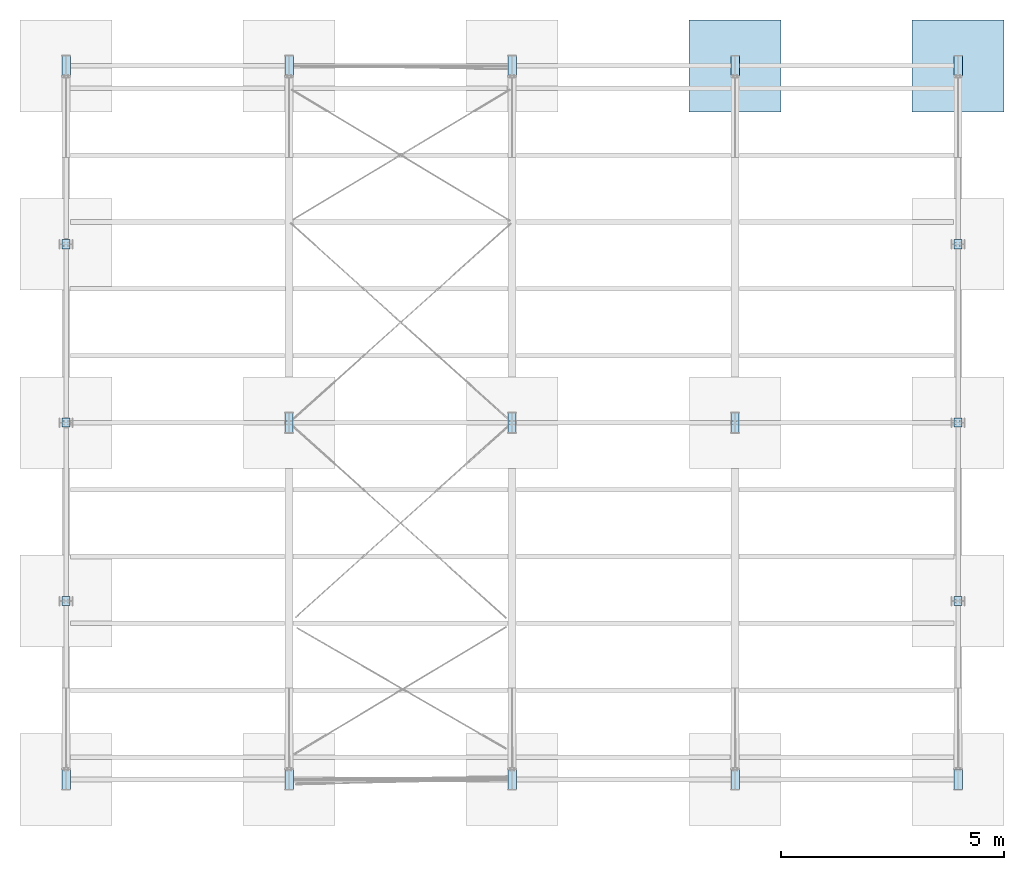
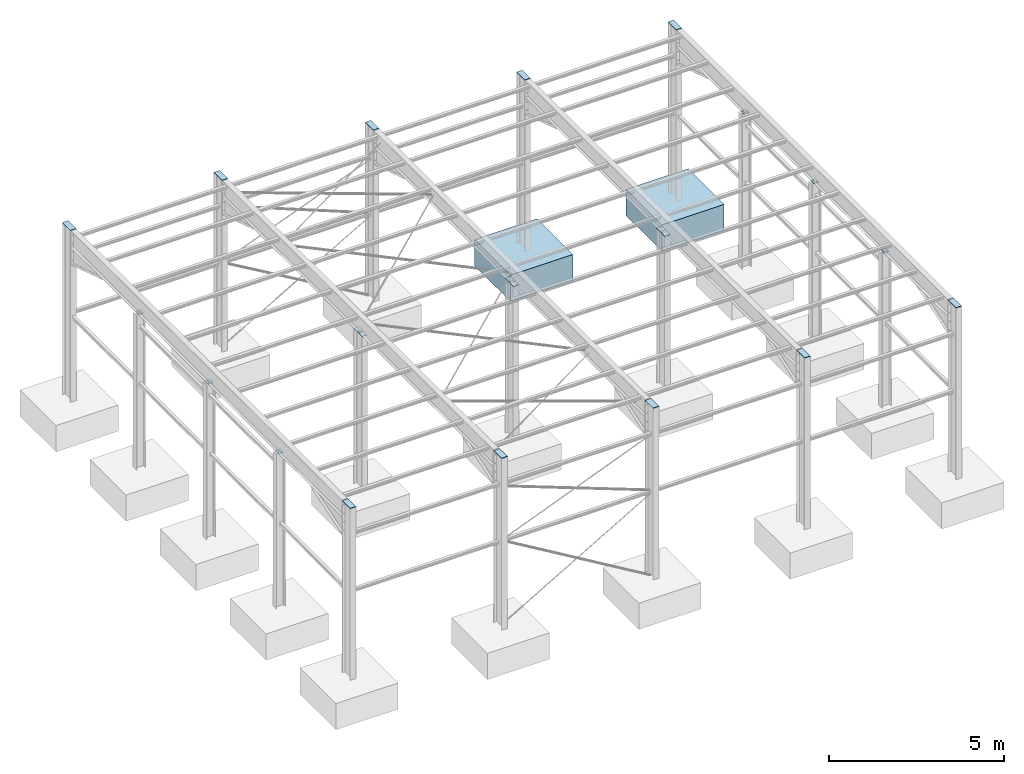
# Not in any storey, part 7 of 51: 20 plates, 2 slabs, 36 openings.
"""IFC4 model written with IfcOpenShell, lengths in feet."""

from ifc_helpers import new_model, entity, si_unit, converted_unit, direction, frame, frame_2d, origin, origin_with_axes, place, context, subcontext, project, spatial, polyline, indexed_curve, circle, outline, extrude, material, layer, layer_set, type_object, element, save


model = new_model("IFC4")

# Units and contexts
model_context = context("Model", 3, precision=0.0001, world=origin(), true_north=direction((6.123233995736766e-17, 1.0)))
body_context = subcontext(model_context, "Body", "Model", "MODEL_VIEW")
ifc_project = project(units=[converted_unit("LENGTHUNIT", "FOOT", entity("IfcLengthMeasure", 0.3048), si_unit("LENGTHUNIT", "METRE"), dimensions=[1, 0, 0, 0, 0, 0, 0]), converted_unit("AREAUNIT", "SQUARE INCH", entity("IfcAreaMeasure", 0.0006451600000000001), si_unit("AREAUNIT", "SQUARE_METRE"), dimensions=[2, 0, 0, 0, 0, 0, 0]), converted_unit("PLANEANGLEUNIT", "DEGREE", entity("IfcPlaneAngleMeasure", 0.017453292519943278), si_unit("PLANEANGLEUNIT", "RADIAN"), dimensions=[0, 0, 0, 0, 0, 0, 0]), si_unit("VOLUMEUNIT", "CUBIC_METRE")], contexts=[model_context])

# Site
site_placement = place(None, origin())
site = spatial("IfcSite", under=ifc_project, at=site_placement, Name="Default", CompositionType="ELEMENT")

# Slabs
ifc_material_1 = material(Name="Concrete, Cast-in-Place gray", Category="Concrete")
slab_type = type_object("IfcSlabType", Name="Pile Cap-Rectangular:81\" x 81\" x 36\"", PredefinedType="BASESLAB", material=ifc_material_1)
slab_1_placement = place(site_placement, origin())
element("IfcSlab", 1, at=slab_1_placement, inside=site, type_object=slab_type, Name="Pile Cap-Rectangular:81\" x 81\" x 36\"", ObjectType="Pile Cap-Rectangular:81\" x 81\" x 36\"", PredefinedType="BASESLAB", context=body_context, shape_type="SweptSolid", body=[
    extrude(outline(indexed_curve([(-3.375, -3.375), (3.375, -3.375), (3.375, 3.375), (-3.375, 3.375), (-3.375, -3.375)], self_intersect=False)), frame((60.46633519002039, 57.94845552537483, -3.0), z_axis=(0.0, 0.0, 1.0), x_axis=(-1.0, 0.0, 0.0)), (0.0, 0.0, 1.0), 3.0),
])
slab_2_placement = place(site_placement, origin())
element("IfcSlab", 2, at=slab_2_placement, inside=site, type_object=slab_type, Name="Pile Cap-Rectangular:81\" x 81\" x 36\"", ObjectType="Pile Cap-Rectangular:81\" x 81\" x 36\"", PredefinedType="BASESLAB", context=body_context, shape_type="SweptSolid", body=[
    extrude(outline(indexed_curve([(-3.375, -3.375), (3.375, -3.375), (3.375, 3.375), (-3.375, 3.375), (-3.375, -3.375)], self_intersect=False)), frame((76.87053466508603, 57.94845552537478, -3.0), z_axis=(0.0, 0.0, 1.0), x_axis=(-1.0, 0.0, 0.0)), (0.0, 0.0, 1.0), 3.0),
])

# Plates
ifc_material_2 = material(Name="Dachdeckung - Blechdach")
ifc_layer_1 = layer(ifc_material_2, 15.0)
ifc_layer_set_1 = layer_set([ifc_layer_1], Name="Dachdeckung - Blechdach")
for number, where, z_axis, x_axis in (
    (3, (77.18221445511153, 6.205279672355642, 19.63582677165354), (0.0, 0.0, 1.0), (-1.0, 0.0, 0.0)),
    (4, (27.346256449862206, 57.198193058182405, 19.63582677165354), (0.0, 0.0, 1.0), (1.0, 0.0, 0.0)),
    (5, (43.75045592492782, 57.198193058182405, 19.63582677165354), (0.0, 0.0, 1.0), (1.0, 0.0, 0.0)),
    (6, (60.15465539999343, 57.198193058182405, 19.63582677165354), (0.0, 0.0, 1.0), (1.0, 0.0, 0.0)),
):
    element("IfcPlate", number, at=place(site_placement, frame(where, z_axis=z_axis, x_axis=x_axis)), inside=site, material=ifc_layer_set_1, Name="Coverplate", ObjectType="Coverplate", context=model_context, shape_type="SweptSolid", body=[
        extrude(outline(polyline([(0.0, 0.0), (0.6233595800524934, 0.0), (0.6233595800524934, 1.5005249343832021), (0.0, 1.5005249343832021), (0.0, 0.0)])), origin_with_axes(), (0.0, 0.0, 1.0), 0.049212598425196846),
    ])

# Plate, openings
ifc_layer_2 = layer(ifc_material_2, 12.7)
ifc_layer_set_2 = layer_set([ifc_layer_2], Name="Dachdeckung - Blechdach")
plate_1_placement = place(site_placement, frame((11.545820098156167, 32.03548636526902, 17.676706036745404), z_axis=(0.0, 0.0, 1.0), x_axis=(-1.0, 0.0, 0.0)))
plate_1 = element("IfcPlate", 7, at=plate_1_placement, inside=site, material=ifc_layer_set_2, Name="Endplate", ObjectType="Endplate", context=model_context, shape_type="SweptSolid", body=[
    extrude(outline(polyline([(0.0, 0.0), (0.5841666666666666, 0.0), (0.5841666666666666, 0.6675), (0.0, 0.6675), (0.0, 0.0)])), origin_with_axes(), (0.0, 0.0, 1.0), 0.041666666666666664),
])
opening_1_placement = place(plate_1_placement, frame((0.2920833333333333, 0.33375, -0.0016404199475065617), z_axis=(0.0, 0.0, 1.0), x_axis=(0.0, -1.0, 0.0)))
element("IfcOpeningElement", 8, at=opening_1_placement, cuts=plate_1, ObjectType="Opening", context=model_context, shape_type="SweptSolid", body=[
    extrude(circle(Radius=0.03385744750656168, at=frame_2d((0.125, 0.14583333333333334), x_axis=(1.0, 0.0))), origin(), (0.0, 0.0, 1.0), 0.044947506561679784),
])
opening_2_placement = place(plate_1_placement, frame((0.2920833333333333, 0.33375, -0.0016404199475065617), z_axis=(0.0, 0.0, 1.0), x_axis=(0.0, -1.0, 0.0)))
element("IfcOpeningElement", 9, at=opening_2_placement, cuts=plate_1, ObjectType="Opening", context=model_context, shape_type="SweptSolid", body=[
    extrude(circle(Radius=0.03385744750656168, at=frame_2d((-0.125, 0.14583333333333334), x_axis=(1.0, 0.0))), origin(), (0.0, 0.0, 1.0), 0.044947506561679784),
])
opening_3_placement = place(plate_1_placement, frame((0.2920833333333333, 0.33375, -0.0016404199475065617), z_axis=(0.0, 0.0, 1.0), x_axis=(0.0, -1.0, 0.0)))
element("IfcOpeningElement", 10, at=opening_3_placement, cuts=plate_1, ObjectType="Opening", context=model_context, shape_type="SweptSolid", body=[
    extrude(circle(Radius=0.03385744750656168, at=frame_2d((0.125, -0.14583333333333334), x_axis=(1.0, 0.0))), origin(), (0.0, 0.0, 1.0), 0.044947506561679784),
])
opening_4_placement = place(plate_1_placement, frame((0.2920833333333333, 0.33375, -0.0016404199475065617), z_axis=(0.0, 0.0, 1.0), x_axis=(0.0, -1.0, 0.0)))
element("IfcOpeningElement", 11, at=opening_4_placement, cuts=plate_1, ObjectType="Opening", context=model_context, shape_type="SweptSolid", body=[
    extrude(circle(Radius=0.03385744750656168, at=frame_2d((-0.125, -0.14583333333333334), x_axis=(1.0, 0.0))), origin(), (0.0, 0.0, 1.0), 0.044947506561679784),
])

plate_2_placement = place(site_placement, frame((11.545820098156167, 45.15884594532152, 17.676706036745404), z_axis=(0.0, 0.0, 1.0), x_axis=(-1.0, 0.0, 0.0)))
plate_2 = element("IfcPlate", 12, at=plate_2_placement, inside=site, material=ifc_layer_set_2, Name="Endplate", ObjectType="Endplate", context=model_context, shape_type="SweptSolid", body=[
    extrude(outline(polyline([(0.0, 0.0), (0.5841666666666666, 0.0), (0.5841666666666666, 0.6675), (0.0, 0.6675), (0.0, 0.0)])), origin_with_axes(), (0.0, 0.0, 1.0), 0.041666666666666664),
])
opening_5_placement = place(plate_2_placement, frame((0.2920833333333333, 0.33375, -0.0016404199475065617), z_axis=(0.0, 0.0, 1.0), x_axis=(0.0, -1.0, 0.0)))
element("IfcOpeningElement", 13, at=opening_5_placement, cuts=plate_2, ObjectType="Opening", context=model_context, shape_type="SweptSolid", body=[
    extrude(circle(Radius=0.03385744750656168, at=frame_2d((0.125, 0.14583333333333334), x_axis=(1.0, 0.0))), origin(), (0.0, 0.0, 1.0), 0.044947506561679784),
])
opening_6_placement = place(plate_2_placement, frame((0.2920833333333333, 0.33375, -0.0016404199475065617), z_axis=(0.0, 0.0, 1.0), x_axis=(0.0, -1.0, 0.0)))
element("IfcOpeningElement", 14, at=opening_6_placement, cuts=plate_2, ObjectType="Opening", context=model_context, shape_type="SweptSolid", body=[
    extrude(circle(Radius=0.03385744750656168, at=frame_2d((-0.125, 0.14583333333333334), x_axis=(1.0, 0.0))), origin(), (0.0, 0.0, 1.0), 0.044947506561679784),
])
opening_7_placement = place(plate_2_placement, frame((0.2920833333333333, 0.33375, -0.0016404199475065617), z_axis=(0.0, 0.0, 1.0), x_axis=(0.0, -1.0, 0.0)))
element("IfcOpeningElement", 15, at=opening_7_placement, cuts=plate_2, ObjectType="Opening", context=model_context, shape_type="SweptSolid", body=[
    extrude(circle(Radius=0.03385744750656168, at=frame_2d((0.125, -0.14583333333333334), x_axis=(1.0, 0.0))), origin(), (0.0, 0.0, 1.0), 0.044947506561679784),
])
opening_8_placement = place(plate_2_placement, frame((0.2920833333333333, 0.33375, -0.0016404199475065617), z_axis=(0.0, 0.0, 1.0), x_axis=(0.0, -1.0, 0.0)))
element("IfcOpeningElement", 16, at=opening_8_placement, cuts=plate_2, ObjectType="Opening", context=model_context, shape_type="SweptSolid", body=[
    extrude(circle(Radius=0.03385744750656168, at=frame_2d((-0.125, -0.14583333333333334), x_axis=(1.0, 0.0))), origin(), (0.0, 0.0, 1.0), 0.044947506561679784),
])

plate_3_placement = place(site_placement, frame((11.545820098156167, 18.912126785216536, 17.676706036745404), z_axis=(0.0, 0.0, 1.0), x_axis=(-1.0, 0.0, 0.0)))
plate_3 = element("IfcPlate", 17, at=plate_3_placement, inside=site, material=ifc_layer_set_2, Name="Endplate", ObjectType="Endplate", context=model_context, shape_type="SweptSolid", body=[
    extrude(outline(polyline([(0.0, 0.0), (0.5841666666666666, 0.0), (0.5841666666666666, 0.6675), (0.0, 0.6675), (0.0, 0.0)])), origin_with_axes(), (0.0, 0.0, 1.0), 0.041666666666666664),
])
opening_9_placement = place(plate_3_placement, frame((0.2920833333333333, 0.33375, -0.0016404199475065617), z_axis=(0.0, 0.0, 1.0), x_axis=(0.0, 1.0, 0.0)))
element("IfcOpeningElement", 18, at=opening_9_placement, cuts=plate_3, ObjectType="Opening", context=model_context, shape_type="SweptSolid", body=[
    extrude(circle(Radius=0.03385744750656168, at=frame_2d((0.125, 0.14583333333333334), x_axis=(1.0, 0.0))), origin(), (0.0, 0.0, 1.0), 0.044947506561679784),
])
opening_10_placement = place(plate_3_placement, frame((0.2920833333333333, 0.33375, -0.0016404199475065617), z_axis=(0.0, 0.0, 1.0), x_axis=(0.0, 1.0, 0.0)))
element("IfcOpeningElement", 19, at=opening_10_placement, cuts=plate_3, ObjectType="Opening", context=model_context, shape_type="SweptSolid", body=[
    extrude(circle(Radius=0.03385744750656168, at=frame_2d((-0.125, 0.14583333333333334), x_axis=(1.0, 0.0))), origin(), (0.0, 0.0, 1.0), 0.044947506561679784),
])
opening_11_placement = place(plate_3_placement, frame((0.2920833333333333, 0.33375, -0.0016404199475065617), z_axis=(0.0, 0.0, 1.0), x_axis=(0.0, 1.0, 0.0)))
element("IfcOpeningElement", 20, at=opening_11_placement, cuts=plate_3, ObjectType="Opening", context=model_context, shape_type="SweptSolid", body=[
    extrude(circle(Radius=0.03385744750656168, at=frame_2d((0.125, -0.14583333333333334), x_axis=(1.0, 0.0))), origin(), (0.0, 0.0, 1.0), 0.044947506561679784),
])
opening_12_placement = place(plate_3_placement, frame((0.2920833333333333, 0.33375, -0.0016404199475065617), z_axis=(0.0, 0.0, 1.0), x_axis=(0.0, 1.0, 0.0)))
element("IfcOpeningElement", 21, at=opening_12_placement, cuts=plate_3, ObjectType="Opening", context=model_context, shape_type="SweptSolid", body=[
    extrude(circle(Radius=0.03385744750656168, at=frame_2d((-0.125, -0.14583333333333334), x_axis=(1.0, 0.0))), origin(), (0.0, 0.0, 1.0), 0.044947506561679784),
])

plate_4_placement = place(site_placement, frame((27.36585290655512, 30.935069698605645, 17.676706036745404), z_axis=(0.0, 0.0, 1.0), x_axis=(1.0, 0.0, 0.0)))
plate_4 = element("IfcPlate", 22, at=plate_4_placement, inside=site, material=ifc_layer_set_2, Name="Endplate", ObjectType="Endplate", context=model_context, shape_type="SweptSolid", body=[
    extrude(outline(polyline([(0.0, 0.0), (0.5841666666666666, 0.0), (0.5841666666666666, 1.5333333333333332), (0.0, 1.5333333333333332), (0.0, 0.0)])), origin_with_axes(), (0.0, 0.0, 1.0), 0.041666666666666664),
])
opening_13_placement = place(plate_4_placement, frame((0.2920833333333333, 0.7666666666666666, -0.0016404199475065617), z_axis=(0.0, 0.0, 1.0), x_axis=(0.0, -1.0, 0.0)))
element("IfcOpeningElement", 23, at=opening_13_placement, cuts=plate_4, ObjectType="Opening", context=model_context, shape_type="SweptSolid", body=[
    extrude(circle(Radius=0.03385744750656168, at=frame_2d((0.125, 0.14583333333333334), x_axis=(1.0, 0.0))), origin(), (0.0, 0.0, 1.0), 0.044947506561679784),
])
opening_14_placement = place(plate_4_placement, frame((0.2920833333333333, 0.7666666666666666, -0.0016404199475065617), z_axis=(0.0, 0.0, 1.0), x_axis=(0.0, -1.0, 0.0)))
element("IfcOpeningElement", 24, at=opening_14_placement, cuts=plate_4, ObjectType="Opening", context=model_context, shape_type="SweptSolid", body=[
    extrude(circle(Radius=0.03385744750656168, at=frame_2d((-0.125, 0.14583333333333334), x_axis=(1.0, 0.0))), origin(), (0.0, 0.0, 1.0), 0.044947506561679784),
])
opening_15_placement = place(plate_4_placement, frame((0.2920833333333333, 0.7666666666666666, -0.0016404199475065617), z_axis=(0.0, 0.0, 1.0), x_axis=(0.0, -1.0, 0.0)))
element("IfcOpeningElement", 25, at=opening_15_placement, cuts=plate_4, ObjectType="Opening", context=model_context, shape_type="SweptSolid", body=[
    extrude(circle(Radius=0.03385744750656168, at=frame_2d((0.125, -0.14583333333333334), x_axis=(1.0, 0.0))), origin(), (0.0, 0.0, 1.0), 0.044947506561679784),
])
opening_16_placement = place(plate_4_placement, frame((0.2920833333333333, 0.7666666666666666, -0.0016404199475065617), z_axis=(0.0, 0.0, 1.0), x_axis=(0.0, -1.0, 0.0)))
element("IfcOpeningElement", 26, at=opening_16_placement, cuts=plate_4, ObjectType="Opening", context=model_context, shape_type="SweptSolid", body=[
    extrude(circle(Radius=0.03385744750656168, at=frame_2d((-0.125, -0.14583333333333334), x_axis=(1.0, 0.0))), origin(), (0.0, 0.0, 1.0), 0.044947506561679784),
])

plate_5_placement = place(site_placement, frame((43.77005238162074, 30.935069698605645, 17.676706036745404), z_axis=(0.0, 0.0, 1.0), x_axis=(1.0, 0.0, 0.0)))
plate_5 = element("IfcPlate", 27, at=plate_5_placement, inside=site, material=ifc_layer_set_2, Name="Endplate", ObjectType="Endplate", context=model_context, shape_type="SweptSolid", body=[
    extrude(outline(polyline([(0.0, 0.0), (0.5841666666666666, 0.0), (0.5841666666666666, 1.5333333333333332), (0.0, 1.5333333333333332), (0.0, 0.0)])), origin_with_axes(), (0.0, 0.0, 1.0), 0.041666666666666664),
])
opening_17_placement = place(plate_5_placement, frame((0.2920833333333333, 0.7666666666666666, -0.0016404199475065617), z_axis=(0.0, 0.0, 1.0), x_axis=(0.0, -1.0, 0.0)))
element("IfcOpeningElement", 28, at=opening_17_placement, cuts=plate_5, ObjectType="Opening", context=model_context, shape_type="SweptSolid", body=[
    extrude(circle(Radius=0.03385744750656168, at=frame_2d((0.125, 0.14583333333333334), x_axis=(1.0, 0.0))), origin(), (0.0, 0.0, 1.0), 0.044947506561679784),
])
opening_18_placement = place(plate_5_placement, frame((0.2920833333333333, 0.7666666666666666, -0.0016404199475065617), z_axis=(0.0, 0.0, 1.0), x_axis=(0.0, -1.0, 0.0)))
element("IfcOpeningElement", 29, at=opening_18_placement, cuts=plate_5, ObjectType="Opening", context=model_context, shape_type="SweptSolid", body=[
    extrude(circle(Radius=0.03385744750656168, at=frame_2d((-0.125, 0.14583333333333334), x_axis=(1.0, 0.0))), origin(), (0.0, 0.0, 1.0), 0.044947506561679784),
])
opening_19_placement = place(plate_5_placement, frame((0.2920833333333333, 0.7666666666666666, -0.0016404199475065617), z_axis=(0.0, 0.0, 1.0), x_axis=(0.0, -1.0, 0.0)))
element("IfcOpeningElement", 30, at=opening_19_placement, cuts=plate_5, ObjectType="Opening", context=model_context, shape_type="SweptSolid", body=[
    extrude(circle(Radius=0.03385744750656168, at=frame_2d((0.125, -0.14583333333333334), x_axis=(1.0, 0.0))), origin(), (0.0, 0.0, 1.0), 0.044947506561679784),
])
opening_20_placement = place(plate_5_placement, frame((0.2920833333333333, 0.7666666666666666, -0.0016404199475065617), z_axis=(0.0, 0.0, 1.0), x_axis=(0.0, -1.0, 0.0)))
element("IfcOpeningElement", 31, at=opening_20_placement, cuts=plate_5, ObjectType="Opening", context=model_context, shape_type="SweptSolid", body=[
    extrude(circle(Radius=0.03385744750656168, at=frame_2d((-0.125, -0.14583333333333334), x_axis=(1.0, 0.0))), origin(), (0.0, 0.0, 1.0), 0.044947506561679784),
])

plate_6_placement = place(site_placement, frame((60.174251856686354, 30.935069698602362, 17.676706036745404), z_axis=(0.0, 0.0, 1.0), x_axis=(1.0, 0.0, 0.0)))
plate_6 = element("IfcPlate", 32, at=plate_6_placement, inside=site, material=ifc_layer_set_2, Name="Endplate", ObjectType="Endplate", context=model_context, shape_type="SweptSolid", body=[
    extrude(outline(polyline([(0.0, 0.0), (0.5841666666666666, 0.0), (0.5841666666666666, 1.5333333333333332), (0.0, 1.5333333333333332), (0.0, 0.0)])), origin_with_axes(), (0.0, 0.0, 1.0), 0.041666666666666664),
])
opening_21_placement = place(plate_6_placement, frame((0.2920833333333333, 0.7666666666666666, -0.0016404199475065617), z_axis=(0.0, 0.0, 1.0), x_axis=(0.0, -1.0, 0.0)))
element("IfcOpeningElement", 33, at=opening_21_placement, cuts=plate_6, ObjectType="Opening", context=model_context, shape_type="SweptSolid", body=[
    extrude(circle(Radius=0.03385744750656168, at=frame_2d((0.125, 0.14583333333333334), x_axis=(1.0, 0.0))), origin(), (0.0, 0.0, 1.0), 0.044947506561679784),
])
opening_22_placement = place(plate_6_placement, frame((0.2920833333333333, 0.7666666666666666, -0.0016404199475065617), z_axis=(0.0, 0.0, 1.0), x_axis=(0.0, -1.0, 0.0)))
element("IfcOpeningElement", 34, at=opening_22_placement, cuts=plate_6, ObjectType="Opening", context=model_context, shape_type="SweptSolid", body=[
    extrude(circle(Radius=0.03385744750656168, at=frame_2d((-0.125, 0.14583333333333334), x_axis=(1.0, 0.0))), origin(), (0.0, 0.0, 1.0), 0.044947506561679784),
])
opening_23_placement = place(plate_6_placement, frame((0.2920833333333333, 0.7666666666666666, -0.0016404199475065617), z_axis=(0.0, 0.0, 1.0), x_axis=(0.0, -1.0, 0.0)))
element("IfcOpeningElement", 35, at=opening_23_placement, cuts=plate_6, ObjectType="Opening", context=model_context, shape_type="SweptSolid", body=[
    extrude(circle(Radius=0.03385744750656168, at=frame_2d((0.125, -0.14583333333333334), x_axis=(1.0, 0.0))), origin(), (0.0, 0.0, 1.0), 0.044947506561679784),
])
opening_24_placement = place(plate_6_placement, frame((0.2920833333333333, 0.7666666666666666, -0.0016404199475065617), z_axis=(0.0, 0.0, 1.0), x_axis=(0.0, -1.0, 0.0)))
element("IfcOpeningElement", 36, at=opening_24_placement, cuts=plate_6, ObjectType="Opening", context=model_context, shape_type="SweptSolid", body=[
    extrude(circle(Radius=0.03385744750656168, at=frame_2d((-0.125, -0.14583333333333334), x_axis=(1.0, 0.0))), origin(), (0.0, 0.0, 1.0), 0.044947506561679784),
])

plate_7_placement = place(site_placement, frame((77.16261799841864, 32.03548636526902, 17.676706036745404), z_axis=(0.0, 0.0, 1.0), x_axis=(-1.0, 0.0, 0.0)))
plate_7 = element("IfcPlate", 37, at=plate_7_placement, inside=site, material=ifc_layer_set_2, Name="Endplate", ObjectType="Endplate", context=model_context, shape_type="SweptSolid", body=[
    extrude(outline(polyline([(0.0, 0.0), (0.5841666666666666, 0.0), (0.5841666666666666, 0.6675), (0.0, 0.6675), (0.0, 0.0)])), origin_with_axes(), (0.0, 0.0, 1.0), 0.041666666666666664),
])
opening_25_placement = place(plate_7_placement, frame((0.2920833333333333, 0.33375, -0.0016404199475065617), z_axis=(0.0, 0.0, 1.0), x_axis=(0.0, 1.0, 0.0)))
element("IfcOpeningElement", 38, at=opening_25_placement, cuts=plate_7, ObjectType="Opening", context=model_context, shape_type="SweptSolid", body=[
    extrude(circle(Radius=0.03385744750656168, at=frame_2d((0.125, 0.14583333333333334), x_axis=(1.0, 0.0))), origin(), (0.0, 0.0, 1.0), 0.044947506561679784),
])
opening_26_placement = place(plate_7_placement, frame((0.2920833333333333, 0.33375, -0.0016404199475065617), z_axis=(0.0, 0.0, 1.0), x_axis=(0.0, 1.0, 0.0)))
element("IfcOpeningElement", 39, at=opening_26_placement, cuts=plate_7, ObjectType="Opening", context=model_context, shape_type="SweptSolid", body=[
    extrude(circle(Radius=0.03385744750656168, at=frame_2d((-0.125, 0.14583333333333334), x_axis=(1.0, 0.0))), origin(), (0.0, 0.0, 1.0), 0.044947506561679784),
])
opening_27_placement = place(plate_7_placement, frame((0.2920833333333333, 0.33375, -0.0016404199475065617), z_axis=(0.0, 0.0, 1.0), x_axis=(0.0, 1.0, 0.0)))
element("IfcOpeningElement", 40, at=opening_27_placement, cuts=plate_7, ObjectType="Opening", context=model_context, shape_type="SweptSolid", body=[
    extrude(circle(Radius=0.03385744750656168, at=frame_2d((0.125, -0.14583333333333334), x_axis=(1.0, 0.0))), origin(), (0.0, 0.0, 1.0), 0.044947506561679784),
])
opening_28_placement = place(plate_7_placement, frame((0.2920833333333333, 0.33375, -0.0016404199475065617), z_axis=(0.0, 0.0, 1.0), x_axis=(0.0, 1.0, 0.0)))
element("IfcOpeningElement", 41, at=opening_28_placement, cuts=plate_7, ObjectType="Opening", context=model_context, shape_type="SweptSolid", body=[
    extrude(circle(Radius=0.03385744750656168, at=frame_2d((-0.125, -0.14583333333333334), x_axis=(1.0, 0.0))), origin(), (0.0, 0.0, 1.0), 0.044947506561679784),
])

plate_8_placement = place(site_placement, frame((77.16261799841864, 45.15884594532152, 17.676706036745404), z_axis=(0.0, 0.0, 1.0), x_axis=(-1.0, 0.0, 0.0)))
plate_8 = element("IfcPlate", 42, at=plate_8_placement, inside=site, material=ifc_layer_set_2, Name="Endplate", ObjectType="Endplate", context=model_context, shape_type="SweptSolid", body=[
    extrude(outline(polyline([(0.0, 0.0), (0.5841666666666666, 0.0), (0.5841666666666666, 0.6675), (0.0, 0.6675), (0.0, 0.0)])), origin_with_axes(), (0.0, 0.0, 1.0), 0.041666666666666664),
])
opening_29_placement = place(plate_8_placement, frame((0.2920833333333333, 0.33375, -0.0016404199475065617), z_axis=(0.0, 0.0, 1.0), x_axis=(0.0, -1.0, 0.0)))
element("IfcOpeningElement", 43, at=opening_29_placement, cuts=plate_8, ObjectType="Opening", context=model_context, shape_type="SweptSolid", body=[
    extrude(circle(Radius=0.03385744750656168, at=frame_2d((0.125, 0.14583333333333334), x_axis=(1.0, 0.0))), origin(), (0.0, 0.0, 1.0), 0.044947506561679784),
])
opening_30_placement = place(plate_8_placement, frame((0.2920833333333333, 0.33375, -0.0016404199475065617), z_axis=(0.0, 0.0, 1.0), x_axis=(0.0, -1.0, 0.0)))
element("IfcOpeningElement", 44, at=opening_30_placement, cuts=plate_8, ObjectType="Opening", context=model_context, shape_type="SweptSolid", body=[
    extrude(circle(Radius=0.03385744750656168, at=frame_2d((-0.125, 0.14583333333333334), x_axis=(1.0, 0.0))), origin(), (0.0, 0.0, 1.0), 0.044947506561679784),
])
opening_31_placement = place(plate_8_placement, frame((0.2920833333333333, 0.33375, -0.0016404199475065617), z_axis=(0.0, 0.0, 1.0), x_axis=(0.0, -1.0, 0.0)))
element("IfcOpeningElement", 45, at=opening_31_placement, cuts=plate_8, ObjectType="Opening", context=model_context, shape_type="SweptSolid", body=[
    extrude(circle(Radius=0.03385744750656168, at=frame_2d((0.125, -0.14583333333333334), x_axis=(1.0, 0.0))), origin(), (0.0, 0.0, 1.0), 0.044947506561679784),
])
opening_32_placement = place(plate_8_placement, frame((0.2920833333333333, 0.33375, -0.0016404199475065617), z_axis=(0.0, 0.0, 1.0), x_axis=(0.0, -1.0, 0.0)))
element("IfcOpeningElement", 46, at=opening_32_placement, cuts=plate_8, ObjectType="Opening", context=model_context, shape_type="SweptSolid", body=[
    extrude(circle(Radius=0.03385744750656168, at=frame_2d((-0.125, -0.14583333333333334), x_axis=(1.0, 0.0))), origin(), (0.0, 0.0, 1.0), 0.044947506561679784),
])

plate_9_placement = place(site_placement, frame((77.16261799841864, 18.912126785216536, 17.676706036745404), z_axis=(0.0, 0.0, 1.0), x_axis=(-1.0, 0.0, 0.0)))
plate_9 = element("IfcPlate", 47, at=plate_9_placement, inside=site, material=ifc_layer_set_2, Name="Endplate", ObjectType="Endplate", context=model_context, shape_type="SweptSolid", body=[
    extrude(outline(polyline([(0.0, 0.0), (0.5841666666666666, 0.0), (0.5841666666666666, 0.6675), (0.0, 0.6675), (0.0, 0.0)])), origin_with_axes(), (0.0, 0.0, 1.0), 0.041666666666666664),
])
opening_33_placement = place(plate_9_placement, frame((0.2920833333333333, 0.33375, -0.0016404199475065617), z_axis=(0.0, 0.0, 1.0), x_axis=(0.0, 1.0, 0.0)))
element("IfcOpeningElement", 48, at=opening_33_placement, cuts=plate_9, ObjectType="Opening", context=model_context, shape_type="SweptSolid", body=[
    extrude(circle(Radius=0.03385744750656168, at=frame_2d((0.125, 0.14583333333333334), x_axis=(1.0, 0.0))), origin(), (0.0, 0.0, 1.0), 0.044947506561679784),
])
opening_34_placement = place(plate_9_placement, frame((0.2920833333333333, 0.33375, -0.0016404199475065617), z_axis=(0.0, 0.0, 1.0), x_axis=(0.0, 1.0, 0.0)))
element("IfcOpeningElement", 49, at=opening_34_placement, cuts=plate_9, ObjectType="Opening", context=model_context, shape_type="SweptSolid", body=[
    extrude(circle(Radius=0.03385744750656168, at=frame_2d((-0.125, 0.14583333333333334), x_axis=(1.0, 0.0))), origin(), (0.0, 0.0, 1.0), 0.044947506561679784),
])
opening_35_placement = place(plate_9_placement, frame((0.2920833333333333, 0.33375, -0.0016404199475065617), z_axis=(0.0, 0.0, 1.0), x_axis=(0.0, 1.0, 0.0)))
element("IfcOpeningElement", 50, at=opening_35_placement, cuts=plate_9, ObjectType="Opening", context=model_context, shape_type="SweptSolid", body=[
    extrude(circle(Radius=0.03385744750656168, at=frame_2d((0.125, -0.14583333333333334), x_axis=(1.0, 0.0))), origin(), (0.0, 0.0, 1.0), 0.044947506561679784),
])
opening_36_placement = place(plate_9_placement, frame((0.2920833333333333, 0.33375, -0.0016404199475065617), z_axis=(0.0, 0.0, 1.0), x_axis=(0.0, 1.0, 0.0)))
element("IfcOpeningElement", 51, at=opening_36_placement, cuts=plate_9, ObjectType="Opening", context=model_context, shape_type="SweptSolid", body=[
    extrude(circle(Radius=0.03385744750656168, at=frame_2d((-0.125, -0.14583333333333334), x_axis=(1.0, 0.0))), origin(), (0.0, 0.0, 1.0), 0.044947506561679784),
])

# Plates
for number, where, z_axis, x_axis in (
    (52, (77.18221445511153, 6.205279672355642, 19.63582677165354), (0.0, 0.0, 1.0), (-1.0, 0.0, 0.0)),
    (53, (76.55885487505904, 57.198193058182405, 19.63582677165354), (0.0, 0.0, 1.0), (1.0, 0.0, 0.0)),
    (54, (10.942056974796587, 57.198193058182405, 19.63582677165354), (0.0, 0.0, 1.0), (1.0, 0.0, 0.0)),
    (55, (11.565416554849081, 6.205279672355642, 19.63582677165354), (0.0, 0.0, 1.0), (-1.0, 0.0, 0.0)),
    (56, (27.969616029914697, 6.205279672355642, 19.63582677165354), (0.0, 0.0, 1.0), (-1.0, 0.0, 0.0)),
    (57, (44.373815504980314, 6.205279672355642, 19.63582677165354), (0.0, 0.0, 1.0), (-1.0, 0.0, 0.0)),
    (58, (60.778014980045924, 6.205279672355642, 19.63582677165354), (0.0, 0.0, 1.0), (-1.0, 0.0, 0.0)),
):
    element("IfcPlate", number, at=place(site_placement, frame(where, z_axis=z_axis, x_axis=x_axis)), inside=site, material=ifc_layer_set_1, Name="Coverplate", ObjectType="Coverplate", context=model_context, shape_type="SweptSolid", body=[
        extrude(outline(polyline([(0.0, 0.0), (0.6233595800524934, 0.0), (0.6233595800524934, 1.5005249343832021), (0.0, 1.5005249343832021), (0.0, 0.0)])), origin_with_axes(), (0.0, 0.0, 1.0), 0.049212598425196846),
    ])

save(model, "model.ifc")
